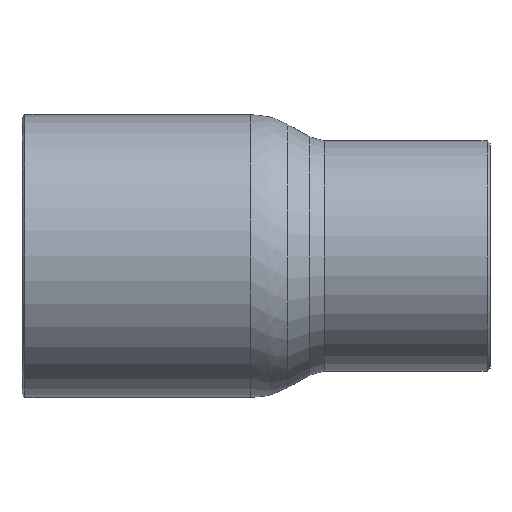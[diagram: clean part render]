
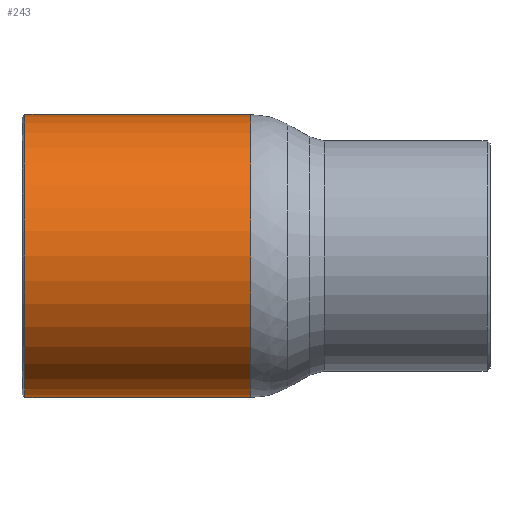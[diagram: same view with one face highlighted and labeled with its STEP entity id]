
A CAD part, front view. The second image highlights one B-rep face of the part: STEP entity #243.
In plain terms, the highlighted cylindrical face has radius 9.525 mm (diameter 19.05 mm), a full revolution.
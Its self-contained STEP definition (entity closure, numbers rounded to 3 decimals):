
#212=CARTESIAN_POINT('',(-21.9,9.525,0.));
#213=VERTEX_POINT('',#212);
#214=CARTESIAN_POINT('',(-21.9,0.0,0.0));
#215=DIRECTION('',(-1.0,0.0,0.0));
#216=DIRECTION('',(0.0,-1.0,0.0));
#217=AXIS2_PLACEMENT_3D('',#214,#215,#216);
#218=CIRCLE('',#217,9.525);
#219=EDGE_CURVE('',#213,#213,#218,.T.);
#224=CARTESIAN_POINT('',(-14.4,0.0,0.0));
#225=DIRECTION('',(1.0,0.0,0.0));
#226=DIRECTION('',(0.0,1.0,0.0));
#227=AXIS2_PLACEMENT_3D('',#224,#225,#226);
#228=CYLINDRICAL_SURFACE('',#227,9.525);
#229=CARTESIAN_POINT('',(-6.7,9.525,0.0));
#230=VERTEX_POINT('',#229);
#231=CARTESIAN_POINT('',(-6.7,0.0,0.0));
#232=DIRECTION('',(1.0,0.0,0.0));
#233=DIRECTION('',(0.0,1.0,0.0));
#234=AXIS2_PLACEMENT_3D('',#231,#232,#233);
#235=CIRCLE('',#234,9.525);
#236=EDGE_CURVE('',#230,#230,#235,.T.);
#237=ORIENTED_EDGE('',*,*,#236,.F.);
#238=EDGE_LOOP('',(#237));
#239=FACE_OUTER_BOUND('',#238,.T.);
#240=ORIENTED_EDGE('',*,*,#219,.F.);
#241=EDGE_LOOP('',(#240));
#242=FACE_BOUND('',#241,.T.);
#243=ADVANCED_FACE('',(#239,#242),#228,.T.);
